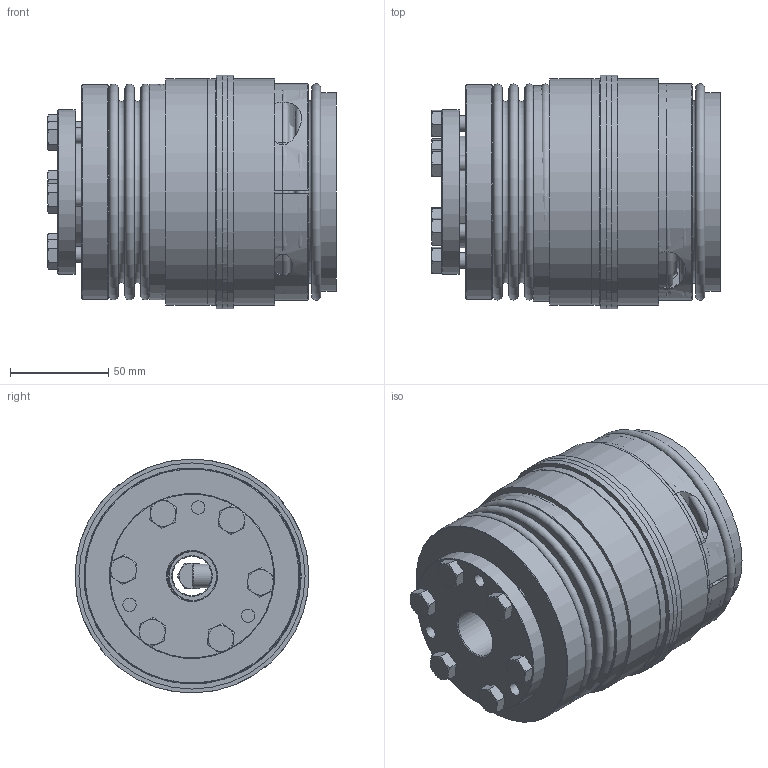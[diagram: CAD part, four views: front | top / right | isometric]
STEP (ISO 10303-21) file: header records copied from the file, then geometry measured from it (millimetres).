
FILE_DESCRIPTION( ( 'Unknown' ), '1' );
FILE_NAME( 'C:/Dokumente und Einstellungen/SKarpstein/Desktop/Korrigierte 3D Modelle/KBK-B-IK/KBK-BIK-300-133.stp', 'Unknown', ( 'Unknown' ), ( 'Unknown' ), 'XStep 1.0', 'Unknown', ' ' );
FILE_SCHEMA( ( 'automotive_design' ) );
Length unit declared in the file: millimetre
Products named in the file (13): Assem1; Assem2; Assem3; Zylinderschraube DIN 912_2_0; Hex Screw GradeC_ISO_ISO 4018 - M8 x 30-NN_2; BA300_Standard_2; KB300_Standard_2; Stellring 300; Druckring 300; Kupplung L-K-300 Grundkörper; Klemmnabe 300; Flansch BK300; BK300_Standard_0
Bounding box: 147.01 x 119 x 119 mm (x, y, z)
Volume: 1899920.1 mm3; surface area: 541981.5 mm2
Topology: 34 solids, 34 shells, 579 faces, 1212 edges, 774 vertices
Faces by surface type: plane 245, cone 158, cylinder 141, torus 35
Full cylindrical faces by diameter (mm): 3.242 x6, 5.2 x6, 6.8 x9, 8 x31, 8.5 x18, 10.106 x2, 12 x3, 12.5 x2, 18 x3, 19 x2, 20 x2, 25 x3, 52 x2, 55 x4, 57 x3, 60 x2, 70 x2, 76 x4, 83.5 x2, 84 x3, 88 x5, 90 x2, 98 x2, 98.5 x2, 99.8 x4, 101 x4, 109.5 x3, 115 x4, 119 x2
Entity records: 4758 total; most frequent: CARTESIAN_POINT 1190, DIRECTION 742, ORIENTED_EDGE 460, AXIS2_PLACEMENT_3D 352, EDGE_LOOP 348, FACE_OUTER_BOUND 239, EDGE_CURVE 230, VERTEX_POINT 204
